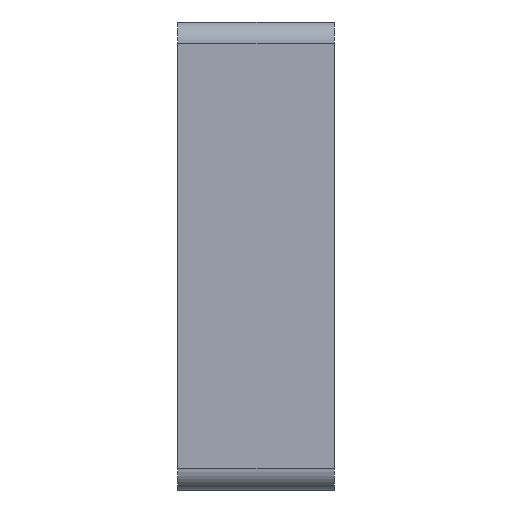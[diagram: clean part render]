
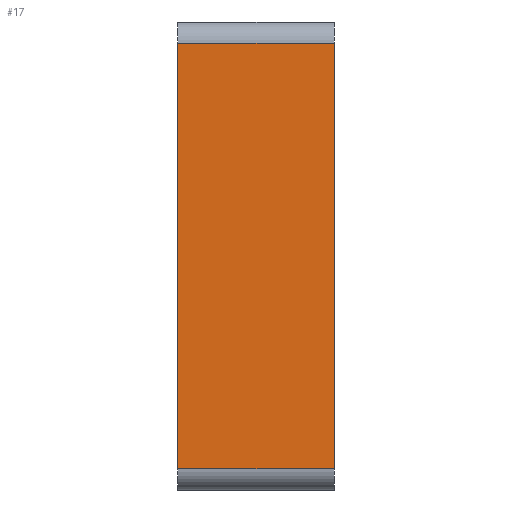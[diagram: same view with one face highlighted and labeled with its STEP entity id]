
A CAD part, left-side view. The second image highlights one B-rep face of the part: STEP entity #17.
In plain terms, the highlighted planar face has unit normal (-1, 0, 0).
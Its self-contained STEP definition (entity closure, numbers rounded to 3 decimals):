
#17 = ADVANCED_FACE('',(#18),#32,.F.);
#18 = FACE_BOUND('',#19,.F.);
#19 = EDGE_LOOP('',(#20,#55,#83,#111));
#20 = ORIENTED_EDGE('',*,*,#21,.F.);
#21 = EDGE_CURVE('',#22,#24,#26,.T.);
#22 = VERTEX_POINT('',#23);
#23 = CARTESIAN_POINT('',(-16.6,-41.703,78.5));
#24 = VERTEX_POINT('',#25);
#25 = CARTESIAN_POINT('',(-16.6,-41.703,88.5));
#26 = SURFACE_CURVE('',#27,(#31,#43),.PCURVE_S1.);
#27 = LINE('',#28,#29);
#28 = CARTESIAN_POINT('',(-16.6,-41.703,78.));
#29 = VECTOR('',#30,1.);
#30 = DIRECTION('',(0.,0.,1.));
#31 = PCURVE('',#32,#37);
#32 = PLANE('',#33);
#33 = AXIS2_PLACEMENT_3D('',#34,#35,#36);
#34 = CARTESIAN_POINT('',(-16.6,-41.703,78.));
#35 = DIRECTION('',(1.,0.,-0.));
#36 = DIRECTION('',(0.,0.,1.));
#37 = DEFINITIONAL_REPRESENTATION('',(#38),#42);
#38 = LINE('',#39,#40);
#39 = CARTESIAN_POINT('',(0.,0.));
#40 = VECTOR('',#41,1.);
#41 = DIRECTION('',(1.,0.));
#42 = ( GEOMETRIC_REPRESENTATION_CONTEXT(2) 
PARAMETRIC_REPRESENTATION_CONTEXT() REPRESENTATION_CONTEXT('2D SPACE',''
  ) );
#43 = PCURVE('',#44,#49);
#44 = PLANE('',#45);
#45 = AXIS2_PLACEMENT_3D('',#46,#47,#48);
#46 = CARTESIAN_POINT('',(-16.6,-41.703,78.));
#47 = DIRECTION('',(-0.,1.,0.));
#48 = DIRECTION('',(0.,0.,1.));
#49 = DEFINITIONAL_REPRESENTATION('',(#50),#54);
#50 = LINE('',#51,#52);
#51 = CARTESIAN_POINT('',(0.,0.));
#52 = VECTOR('',#53,1.);
#53 = DIRECTION('',(1.,0.));
#54 = ( GEOMETRIC_REPRESENTATION_CONTEXT(2) 
PARAMETRIC_REPRESENTATION_CONTEXT() REPRESENTATION_CONTEXT('2D SPACE',''
  ) );
#55 = ORIENTED_EDGE('',*,*,#56,.F.);
#56 = EDGE_CURVE('',#57,#22,#59,.T.);
#57 = VERTEX_POINT('',#58);
#58 = CARTESIAN_POINT('',(-16.6,-38.018,78.5));
#59 = SURFACE_CURVE('',#60,(#64,#71),.PCURVE_S1.);
#60 = LINE('',#61,#62);
#61 = CARTESIAN_POINT('',(-16.6,-38.018,78.5));
#62 = VECTOR('',#63,1.);
#63 = DIRECTION('',(0.,-1.,0.));
#64 = PCURVE('',#32,#65);
#65 = DEFINITIONAL_REPRESENTATION('',(#66),#70);
#66 = LINE('',#67,#68);
#67 = CARTESIAN_POINT('',(0.5,-3.686));
#68 = VECTOR('',#69,1.);
#69 = DIRECTION('',(0.,1.));
#70 = ( GEOMETRIC_REPRESENTATION_CONTEXT(2) 
PARAMETRIC_REPRESENTATION_CONTEXT() REPRESENTATION_CONTEXT('2D SPACE',''
  ) );
#71 = PCURVE('',#72,#77);
#72 = CYLINDRICAL_SURFACE('',#73,0.5);
#73 = AXIS2_PLACEMENT_3D('',#74,#75,#76);
#74 = CARTESIAN_POINT('',(-16.1,-38.018,78.5));
#75 = DIRECTION('',(0.,-1.,0.));
#76 = DIRECTION('',(-1.,0.,0.));
#77 = DEFINITIONAL_REPRESENTATION('',(#78),#82);
#78 = LINE('',#79,#80);
#79 = CARTESIAN_POINT('',(0.,0.));
#80 = VECTOR('',#81,1.);
#81 = DIRECTION('',(0.,1.));
#82 = ( GEOMETRIC_REPRESENTATION_CONTEXT(2) 
PARAMETRIC_REPRESENTATION_CONTEXT() REPRESENTATION_CONTEXT('2D SPACE',''
  ) );
#83 = ORIENTED_EDGE('',*,*,#84,.F.);
#84 = EDGE_CURVE('',#85,#57,#87,.T.);
#85 = VERTEX_POINT('',#86);
#86 = CARTESIAN_POINT('',(-16.6,-38.018,88.5));
#87 = SURFACE_CURVE('',#88,(#92,#99),.PCURVE_S1.);
#88 = LINE('',#89,#90);
#89 = CARTESIAN_POINT('',(-16.6,-38.018,89.));
#90 = VECTOR('',#91,1.);
#91 = DIRECTION('',(0.,0.,-1.));
#92 = PCURVE('',#32,#93);
#93 = DEFINITIONAL_REPRESENTATION('',(#94),#98);
#94 = LINE('',#95,#96);
#95 = CARTESIAN_POINT('',(11.,-3.686));
#96 = VECTOR('',#97,1.);
#97 = DIRECTION('',(-1.,0.));
#98 = ( GEOMETRIC_REPRESENTATION_CONTEXT(2) 
PARAMETRIC_REPRESENTATION_CONTEXT() REPRESENTATION_CONTEXT('2D SPACE',''
  ) );
#99 = PCURVE('',#100,#105);
#100 = PLANE('',#101);
#101 = AXIS2_PLACEMENT_3D('',#102,#103,#104);
#102 = CARTESIAN_POINT('',(-16.6,-38.018,78.));
#103 = DIRECTION('',(-0.,1.,0.));
#104 = DIRECTION('',(0.,0.,1.));
#105 = DEFINITIONAL_REPRESENTATION('',(#106),#110);
#106 = LINE('',#107,#108);
#107 = CARTESIAN_POINT('',(11.,0.));
#108 = VECTOR('',#109,1.);
#109 = DIRECTION('',(-1.,0.));
#110 = ( GEOMETRIC_REPRESENTATION_CONTEXT(2) 
PARAMETRIC_REPRESENTATION_CONTEXT() REPRESENTATION_CONTEXT('2D SPACE',''
  ) );
#111 = ORIENTED_EDGE('',*,*,#112,.F.);
#112 = EDGE_CURVE('',#24,#85,#113,.T.);
#113 = SURFACE_CURVE('',#114,(#118,#125),.PCURVE_S1.);
#114 = LINE('',#115,#116);
#115 = CARTESIAN_POINT('',(-16.6,-41.703,88.5));
#116 = VECTOR('',#117,1.);
#117 = DIRECTION('',(0.,1.,0.));
#118 = PCURVE('',#32,#119);
#119 = DEFINITIONAL_REPRESENTATION('',(#120),#124);
#120 = LINE('',#121,#122);
#121 = CARTESIAN_POINT('',(10.5,0.));
#122 = VECTOR('',#123,1.);
#123 = DIRECTION('',(0.,-1.));
#124 = ( GEOMETRIC_REPRESENTATION_CONTEXT(2) 
PARAMETRIC_REPRESENTATION_CONTEXT() REPRESENTATION_CONTEXT('2D SPACE',''
  ) );
#125 = PCURVE('',#126,#131);
#126 = CYLINDRICAL_SURFACE('',#127,0.5);
#127 = AXIS2_PLACEMENT_3D('',#128,#129,#130);
#128 = CARTESIAN_POINT('',(-16.1,-41.703,88.5));
#129 = DIRECTION('',(0.,1.,0.));
#130 = DIRECTION('',(-1.,0.,0.));
#131 = DEFINITIONAL_REPRESENTATION('',(#132),#136);
#132 = LINE('',#133,#134);
#133 = CARTESIAN_POINT('',(0.,0.));
#134 = VECTOR('',#135,1.);
#135 = DIRECTION('',(0.,1.));
#136 = ( GEOMETRIC_REPRESENTATION_CONTEXT(2) 
PARAMETRIC_REPRESENTATION_CONTEXT() REPRESENTATION_CONTEXT('2D SPACE',''
  ) );
